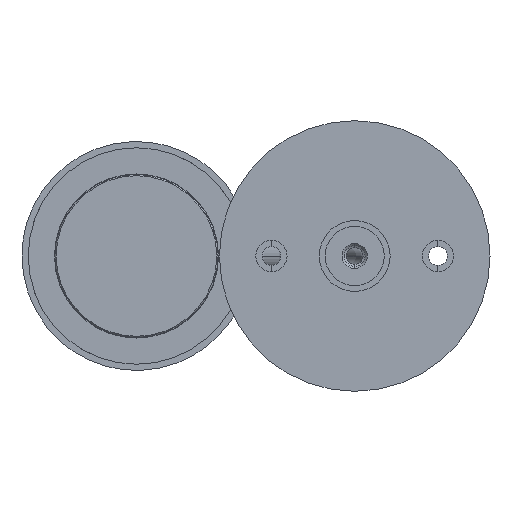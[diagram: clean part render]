
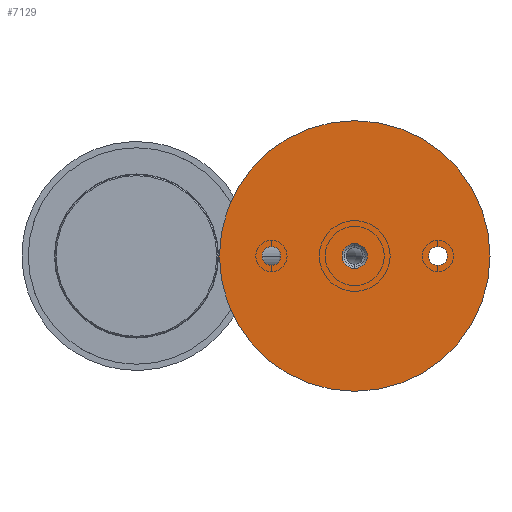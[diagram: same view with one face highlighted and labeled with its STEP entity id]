
A CAD part, front view. The second image highlights one B-rep face of the part: STEP entity #7129.
In plain terms, the highlighted planar face has unit normal (0, -1, 0).
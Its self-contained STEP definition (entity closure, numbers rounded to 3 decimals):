
#45 = VERTEX_POINT ( 'NONE', #2127 ) ;
#162 = EDGE_CURVE ( 'NONE', #2001, #4284, #3219, .T. ) ;
#222 = EDGE_LOOP ( 'NONE', ( #6612, #6535 ) ) ;
#225 = AXIS2_PLACEMENT_3D ( 'NONE', #3687, #322, #6955 ) ;
#272 = AXIS2_PLACEMENT_3D ( 'NONE', #3532, #6338, #1255 ) ;
#290 = DIRECTION ( 'NONE',  ( 0., -1., 0. ) ) ;
#322 = DIRECTION ( 'NONE',  ( 0., -1., 0. ) ) ;
#416 = DIRECTION ( 'NONE',  ( 0., 1., 0. ) ) ;
#487 = DIRECTION ( 'NONE',  ( 0., -1., 0. ) ) ;
#506 = CIRCLE ( 'NONE', #272, 3. ) ;
#564 = EDGE_CURVE ( 'NONE', #4284, #2001, #5328, .T. ) ;
#603 = DIRECTION ( 'NONE',  ( 0., 0., -1. ) ) ;
#614 = AXIS2_PLACEMENT_3D ( 'NONE', #1395, #290, #848 ) ;
#622 = ORIENTED_EDGE ( 'NONE', *, *, #6781, .T. ) ;
#681 = CARTESIAN_POINT ( 'NONE',  ( 0., 0., 3. ) ) ;
#775 = CIRCLE ( 'NONE', #3902, 2.25 ) ;
#780 = VERTEX_POINT ( 'NONE', #984 ) ;
#802 = VERTEX_POINT ( 'NONE', #2646 ) ;
#848 = DIRECTION ( 'NONE',  ( 0., 0., -1. ) ) ;
#956 = CIRCLE ( 'NONE', #7008, 2.25 ) ;
#984 = CARTESIAN_POINT ( 'NONE',  ( -20., 0., 2.25 ) ) ;
#987 = CARTESIAN_POINT ( 'NONE',  ( 0., 0., 0. ) ) ;
#1079 = EDGE_CURVE ( 'NONE', #802, #2272, #6877, .T. ) ;
#1156 = CARTESIAN_POINT ( 'NONE',  ( 0., 0., 0. ) ) ;
#1255 = DIRECTION ( 'NONE',  ( 0., 0., -1. ) ) ;
#1395 = CARTESIAN_POINT ( 'NONE',  ( 0., 0., 0. ) ) ;
#1549 = DIRECTION ( 'NONE',  ( 0., 1., 0. ) ) ;
#1857 = EDGE_CURVE ( 'NONE', #45, #6642, #2704, .T. ) ;
#1913 = DIRECTION ( 'NONE',  ( 0., 1., 0. ) ) ;
#2001 = VERTEX_POINT ( 'NONE', #5476 ) ;
#2077 = DIRECTION ( 'NONE',  ( 0., 0., 1. ) ) ;
#2097 = AXIS2_PLACEMENT_3D ( 'NONE', #2170, #6617, #2077 ) ;
#2121 = PLANE ( 'NONE',  #2296 ) ;
#2127 = CARTESIAN_POINT ( 'NONE',  ( 20., 0., 2.25 ) ) ;
#2131 = ORIENTED_EDGE ( 'NONE', *, *, #564, .T. ) ;
#2170 = CARTESIAN_POINT ( 'NONE',  ( 20., 0., 0. ) ) ;
#2238 = EDGE_LOOP ( 'NONE', ( #3472, #2131 ) ) ;
#2259 = FACE_BOUND ( 'NONE', #3912, .T. ) ;
#2272 = VERTEX_POINT ( 'NONE', #681 ) ;
#2296 = AXIS2_PLACEMENT_3D ( 'NONE', #987, #487, #4362 ) ;
#2609 = FACE_BOUND ( 'NONE', #222, .T. ) ;
#2627 = CIRCLE ( 'NONE', #5132, 2.25 ) ;
#2646 = CARTESIAN_POINT ( 'NONE',  ( 0., 0., -3. ) ) ;
#2675 = DIRECTION ( 'NONE',  ( 0., 1., 0. ) ) ;
#2704 = CIRCLE ( 'NONE', #2097, 2.25 ) ;
#3219 = CIRCLE ( 'NONE', #614, 32.5 ) ;
#3319 = CARTESIAN_POINT ( 'NONE',  ( 20., 0., -2.25 ) ) ;
#3472 = ORIENTED_EDGE ( 'NONE', *, *, #162, .T. ) ;
#3532 = CARTESIAN_POINT ( 'NONE',  ( 0., 0., 0. ) ) ;
#3567 = VERTEX_POINT ( 'NONE', #5560 ) ;
#3687 = CARTESIAN_POINT ( 'NONE',  ( 0., 0., 0. ) ) ;
#3751 = EDGE_LOOP ( 'NONE', ( #6531, #622 ) ) ;
#3902 = AXIS2_PLACEMENT_3D ( 'NONE', #7135, #2675, #6098 ) ;
#3912 = EDGE_LOOP ( 'NONE', ( #3992, #5749 ) ) ;
#3992 = ORIENTED_EDGE ( 'NONE', *, *, #7176, .T. ) ;
#4221 = EDGE_CURVE ( 'NONE', #6642, #45, #2627, .T. ) ;
#4284 = VERTEX_POINT ( 'NONE', #4617 ) ;
#4362 = DIRECTION ( 'NONE',  ( 0., 0., -1. ) ) ;
#4617 = CARTESIAN_POINT ( 'NONE',  ( 0., 0., 32.5 ) ) ;
#5132 = AXIS2_PLACEMENT_3D ( 'NONE', #5285, #1913, #6387 ) ;
#5285 = CARTESIAN_POINT ( 'NONE',  ( 20., 0., 0. ) ) ;
#5328 = CIRCLE ( 'NONE', #225, 32.5 ) ;
#5476 = CARTESIAN_POINT ( 'NONE',  ( 0., 0., -32.5 ) ) ;
#5560 = CARTESIAN_POINT ( 'NONE',  ( -20., 0., -2.25 ) ) ;
#5709 = AXIS2_PLACEMENT_3D ( 'NONE', #1156, #1549, #603 ) ;
#5749 = ORIENTED_EDGE ( 'NONE', *, *, #6278, .T. ) ;
#5988 = DIRECTION ( 'NONE',  ( 0., 0., 1. ) ) ;
#6098 = DIRECTION ( 'NONE',  ( 0., 0., 1. ) ) ;
#6278 = EDGE_CURVE ( 'NONE', #3567, #780, #956, .T. ) ;
#6338 = DIRECTION ( 'NONE',  ( 0., 1., 0. ) ) ;
#6387 = DIRECTION ( 'NONE',  ( 0., 0., 1. ) ) ;
#6518 = CARTESIAN_POINT ( 'NONE',  ( -20., 0., 0. ) ) ;
#6531 = ORIENTED_EDGE ( 'NONE', *, *, #1079, .T. ) ;
#6535 = ORIENTED_EDGE ( 'NONE', *, *, #4221, .T. ) ;
#6612 = ORIENTED_EDGE ( 'NONE', *, *, #1857, .T. ) ;
#6617 = DIRECTION ( 'NONE',  ( 0., 1., 0. ) ) ;
#6642 = VERTEX_POINT ( 'NONE', #3319 ) ;
#6703 = FACE_BOUND ( 'NONE', #3751, .T. ) ;
#6781 = EDGE_CURVE ( 'NONE', #2272, #802, #506, .T. ) ;
#6877 = CIRCLE ( 'NONE', #5709, 3. ) ;
#6955 = DIRECTION ( 'NONE',  ( 0., 0., -1. ) ) ;
#7008 = AXIS2_PLACEMENT_3D ( 'NONE', #6518, #416, #5988 ) ;
#7065 = FACE_OUTER_BOUND ( 'NONE', #2238, .T. ) ;
#7129 = ADVANCED_FACE ( 'NONE', ( #6703, #2259, #2609, #7065 ), #2121, .T. ) ;
#7135 = CARTESIAN_POINT ( 'NONE',  ( -20., 0., 0. ) ) ;
#7176 = EDGE_CURVE ( 'NONE', #780, #3567, #775, .T. ) ;
